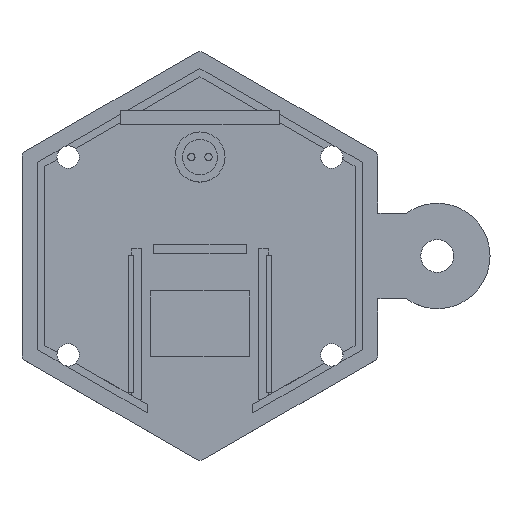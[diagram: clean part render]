
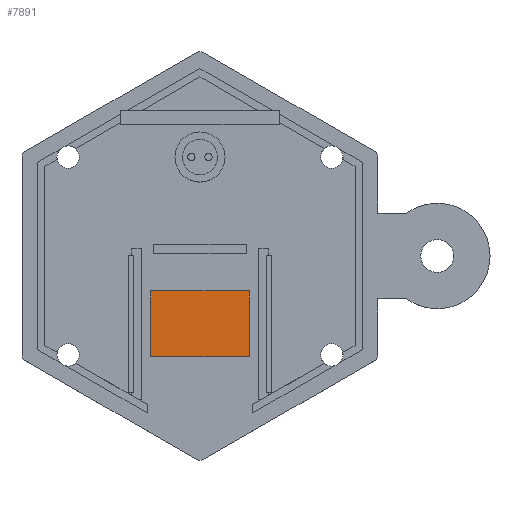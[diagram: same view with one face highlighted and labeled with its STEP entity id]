
A CAD part, top view. The second image highlights one B-rep face of the part: STEP entity #7891.
In plain terms, the highlighted planar face has unit normal (0, 0, 1).
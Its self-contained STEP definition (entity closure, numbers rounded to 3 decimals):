
#1383 = PLANE('',#1384);
#1384 = AXIS2_PLACEMENT_3D('',#1385,#1386,#1387);
#1385 = CARTESIAN_POINT('',(-7.5,-15.3,1.2));
#1386 = DIRECTION('',(0.,1.,0.));
#1387 = DIRECTION('',(0.,0.,1.));
#1409 = PLANE('',#1410);
#1410 = AXIS2_PLACEMENT_3D('',#1411,#1412,#1413);
#1411 = CARTESIAN_POINT('',(-7.5,-15.3,1.2));
#1412 = DIRECTION('',(1.,0.,0.));
#1413 = DIRECTION('',(0.,0.,1.));
#1435 = PLANE('',#1436);
#1436 = AXIS2_PLACEMENT_3D('',#1437,#1438,#1439);
#1437 = CARTESIAN_POINT('',(-7.5,-5.3,1.2));
#1438 = DIRECTION('',(0.,1.,0.));
#1439 = DIRECTION('',(0.,0.,1.));
#1459 = PLANE('',#1460);
#1460 = AXIS2_PLACEMENT_3D('',#1461,#1462,#1463);
#1461 = CARTESIAN_POINT('',(7.5,-15.3,1.2));
#1462 = DIRECTION('',(1.,0.,0.));
#1463 = DIRECTION('',(0.,0.,1.));
#4224 = VERTEX_POINT('',#4225);
#4225 = CARTESIAN_POINT('',(7.5,-15.3,1.2));
#4246 = EDGE_CURVE('',#4247,#4224,#4249,.T.);
#4247 = VERTEX_POINT('',#4248);
#4248 = CARTESIAN_POINT('',(-7.5,-15.3,1.2));
#4249 = SURFACE_CURVE('',#4250,(#4254,#4261),.PCURVE_S1.);
#4250 = LINE('',#4251,#4252);
#4251 = CARTESIAN_POINT('',(-7.5,-15.3,1.2));
#4252 = VECTOR('',#4253,1.);
#4253 = DIRECTION('',(1.,0.,0.));
#4254 = PCURVE('',#1383,#4255);
#4255 = DEFINITIONAL_REPRESENTATION('',(#4256),#4260);
#4256 = LINE('',#4257,#4258);
#4257 = CARTESIAN_POINT('',(0.,0.));
#4258 = VECTOR('',#4259,1.);
#4259 = DIRECTION('',(0.,1.));
#4260 = ( GEOMETRIC_REPRESENTATION_CONTEXT(2) 
PARAMETRIC_REPRESENTATION_CONTEXT() REPRESENTATION_CONTEXT('2D SPACE',''
  ) );
#4261 = PCURVE('',#4262,#4267);
#4262 = PLANE('',#4263);
#4263 = AXIS2_PLACEMENT_3D('',#4264,#4265,#4266);
#4264 = CARTESIAN_POINT('',(-7.5,-15.3,1.2));
#4265 = DIRECTION('',(0.,0.,1.));
#4266 = DIRECTION('',(1.,0.,0.));
#4267 = DEFINITIONAL_REPRESENTATION('',(#4268),#4272);
#4268 = LINE('',#4269,#4270);
#4269 = CARTESIAN_POINT('',(0.,0.));
#4270 = VECTOR('',#4271,1.);
#4271 = DIRECTION('',(1.,0.));
#4272 = ( GEOMETRIC_REPRESENTATION_CONTEXT(2) 
PARAMETRIC_REPRESENTATION_CONTEXT() REPRESENTATION_CONTEXT('2D SPACE',''
  ) );
#4300 = EDGE_CURVE('',#4224,#4301,#4303,.T.);
#4301 = VERTEX_POINT('',#4302);
#4302 = CARTESIAN_POINT('',(7.5,-5.3,1.2));
#4303 = SURFACE_CURVE('',#4304,(#4308,#4315),.PCURVE_S1.);
#4304 = LINE('',#4305,#4306);
#4305 = CARTESIAN_POINT('',(7.5,-15.3,1.2));
#4306 = VECTOR('',#4307,1.);
#4307 = DIRECTION('',(0.,1.,0.));
#4308 = PCURVE('',#1459,#4309);
#4309 = DEFINITIONAL_REPRESENTATION('',(#4310),#4314);
#4310 = LINE('',#4311,#4312);
#4311 = CARTESIAN_POINT('',(0.,0.));
#4312 = VECTOR('',#4313,1.);
#4313 = DIRECTION('',(0.,-1.));
#4314 = ( GEOMETRIC_REPRESENTATION_CONTEXT(2) 
PARAMETRIC_REPRESENTATION_CONTEXT() REPRESENTATION_CONTEXT('2D SPACE',''
  ) );
#4315 = PCURVE('',#4262,#4316);
#4316 = DEFINITIONAL_REPRESENTATION('',(#4317),#4321);
#4317 = LINE('',#4318,#4319);
#4318 = CARTESIAN_POINT('',(15.,0.));
#4319 = VECTOR('',#4320,1.);
#4320 = DIRECTION('',(0.,1.));
#4321 = ( GEOMETRIC_REPRESENTATION_CONTEXT(2) 
PARAMETRIC_REPRESENTATION_CONTEXT() REPRESENTATION_CONTEXT('2D SPACE',''
  ) );
#4349 = EDGE_CURVE('',#4247,#4350,#4352,.T.);
#4350 = VERTEX_POINT('',#4351);
#4351 = CARTESIAN_POINT('',(-7.5,-5.3,1.2));
#4352 = SURFACE_CURVE('',#4353,(#4357,#4364),.PCURVE_S1.);
#4353 = LINE('',#4354,#4355);
#4354 = CARTESIAN_POINT('',(-7.5,-15.3,1.2));
#4355 = VECTOR('',#4356,1.);
#4356 = DIRECTION('',(0.,1.,0.));
#4357 = PCURVE('',#1409,#4358);
#4358 = DEFINITIONAL_REPRESENTATION('',(#4359),#4363);
#4359 = LINE('',#4360,#4361);
#4360 = CARTESIAN_POINT('',(0.,0.));
#4361 = VECTOR('',#4362,1.);
#4362 = DIRECTION('',(0.,-1.));
#4363 = ( GEOMETRIC_REPRESENTATION_CONTEXT(2) 
PARAMETRIC_REPRESENTATION_CONTEXT() REPRESENTATION_CONTEXT('2D SPACE',''
  ) );
#4364 = PCURVE('',#4262,#4365);
#4365 = DEFINITIONAL_REPRESENTATION('',(#4366),#4370);
#4366 = LINE('',#4367,#4368);
#4367 = CARTESIAN_POINT('',(0.,0.));
#4368 = VECTOR('',#4369,1.);
#4369 = DIRECTION('',(0.,1.));
#4370 = ( GEOMETRIC_REPRESENTATION_CONTEXT(2) 
PARAMETRIC_REPRESENTATION_CONTEXT() REPRESENTATION_CONTEXT('2D SPACE',''
  ) );
#4398 = EDGE_CURVE('',#4350,#4301,#4399,.T.);
#4399 = SURFACE_CURVE('',#4400,(#4404,#4411),.PCURVE_S1.);
#4400 = LINE('',#4401,#4402);
#4401 = CARTESIAN_POINT('',(-7.5,-5.3,1.2));
#4402 = VECTOR('',#4403,1.);
#4403 = DIRECTION('',(1.,0.,0.));
#4404 = PCURVE('',#1435,#4405);
#4405 = DEFINITIONAL_REPRESENTATION('',(#4406),#4410);
#4406 = LINE('',#4407,#4408);
#4407 = CARTESIAN_POINT('',(0.,0.));
#4408 = VECTOR('',#4409,1.);
#4409 = DIRECTION('',(0.,1.));
#4410 = ( GEOMETRIC_REPRESENTATION_CONTEXT(2) 
PARAMETRIC_REPRESENTATION_CONTEXT() REPRESENTATION_CONTEXT('2D SPACE',''
  ) );
#4411 = PCURVE('',#4262,#4412);
#4412 = DEFINITIONAL_REPRESENTATION('',(#4413),#4417);
#4413 = LINE('',#4414,#4415);
#4414 = CARTESIAN_POINT('',(0.,10.));
#4415 = VECTOR('',#4416,1.);
#4416 = DIRECTION('',(1.,0.));
#4417 = ( GEOMETRIC_REPRESENTATION_CONTEXT(2) 
PARAMETRIC_REPRESENTATION_CONTEXT() REPRESENTATION_CONTEXT('2D SPACE',''
  ) );
#7891 = ADVANCED_FACE('',(#7892),#4262,.T.);
#7892 = FACE_BOUND('',#7893,.T.);
#7893 = EDGE_LOOP('',(#7894,#7895,#7896,#7897));
#7894 = ORIENTED_EDGE('',*,*,#4349,.F.);
#7895 = ORIENTED_EDGE('',*,*,#4246,.T.);
#7896 = ORIENTED_EDGE('',*,*,#4300,.T.);
#7897 = ORIENTED_EDGE('',*,*,#4398,.F.);
